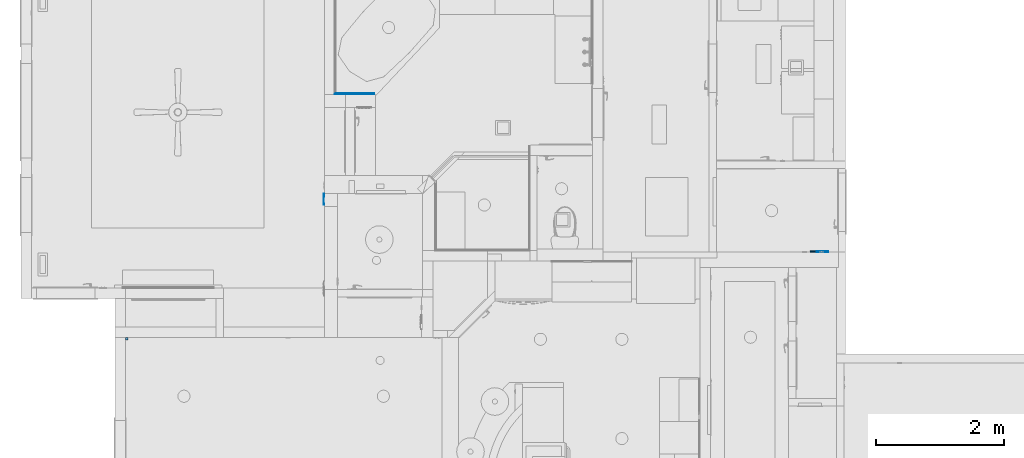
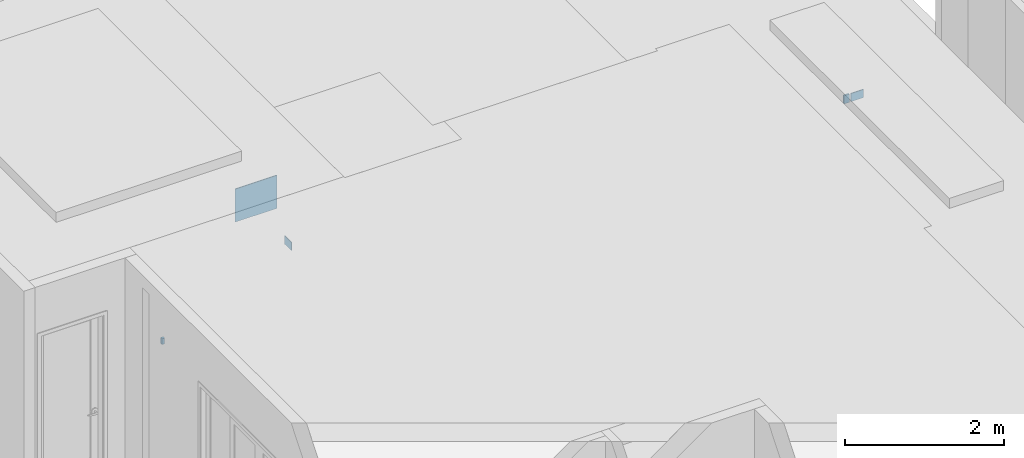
# One storey, part 5 of 103: 5 beams.
"""IFC2X3 building model written with IfcOpenShell, lengths in inches."""

import ifcopenshell
import ifcopenshell.guid

model = None  # the IFC model being written
_history = None  # IfcOwnerHistory: only IFC2X3 demands one
_inside = {}  # id of a spatial element -> (the spatial element, [elements in it])
_under = {}  # id of a project, library or spatial element -> (it, [spatial elements below it])
_declared = {}  # id of a project -> (the project, [libraries it declares])
_typed = {}  # id of a type object -> (the type object, [elements of that type])
_made_of = {}  # id of a material, layer set ... -> (it, [elements and type objects made of it])


def new_model(schema):
    """Start an empty IFC model of exactly this schema.

    Asked for "IFC4X3", IfcOpenShell would pick the latest addendum, in which some entities
    have other attributes; the version numbers below select the first issue.
    IFC2X3 requires an IfcOwnerHistory on every rooted entity: one is made here for all.
    """
    global model, _history
    if schema == "IFC4X3":
        model = ifcopenshell.file(schema_version=(4, 3, 0, 0))
    else:
        model = ifcopenshell.file(schema=schema)
    _inside.clear()
    _under.clear()
    _declared.clear()
    _typed.clear()
    _made_of.clear()
    _history = None
    if model.schema == "IFC2X3":
        org = make("IfcOrganization", Name="unknown")
        user = make(
            "IfcPersonAndOrganization",
            ThePerson=make("IfcPerson", FamilyName="unknown"),
            TheOrganization=org,
        )
        app = make(
            "IfcApplication",
            ApplicationDeveloper=org,
            Version="unknown",
            ApplicationFullName="unknown",
            ApplicationIdentifier="unknown",
        )
        _history = make(
            "IfcOwnerHistory",
            OwningUser=user,
            OwningApplication=app,
            ChangeAction="ADDED",
            CreationDate=0,
        )
    return model


def make(cls, **values):
    """One entity of the class cls with the attributes given. An attribute that is None is left unset."""
    return model.create_entity(
        cls, **{name: value for name, value in values.items() if value is not None}
    )


def entity(cls, *values):
    """Any entity or typed value of the class cls, its attributes in the order of the schema. None: left unset."""
    e = model.create_entity(cls)
    for i, value in enumerate(values):
        if value is not None:
            e[i] = value
    return e


def rooted(cls, **values):
    """An entity with a GlobalId (a new one), such as an element, a storey or a relation."""
    return make(cls, GlobalId=ifcopenshell.guid.new(), OwnerHistory=_history, **values)


def si_unit(unit_type, name, prefix=None):
    """IfcSIUnit, for example si_unit("LENGTHUNIT", "METRE", prefix="MILLI")."""
    return make("IfcSIUnit", UnitType=unit_type, Prefix=prefix, Name=name)


def converted_unit(unit_type, name, factor, base, dimensions=None, offset=None):
    """IfcConversionBasedUnit, such as the inch: factor (a typed value) times the base unit."""
    return make(
        "IfcConversionBasedUnit"
        if offset is None
        else "IfcConversionBasedUnitWithOffset",
        ConversionOffset=offset,
        Dimensions=None
        if dimensions is None
        else entity("IfcDimensionalExponents", *dimensions),
        UnitType=unit_type,
        Name=name,
        ConversionFactor=make(
            "IfcMeasureWithUnit", ValueComponent=factor, UnitComponent=base
        ),
    )


def derived_unit(unit_type, elements):
    """IfcDerivedUnit: a product of units, each with its exponent."""
    return make(
        "IfcDerivedUnit",
        Elements=[
            make("IfcDerivedUnitElement", Unit=unit, Exponent=power)
            for unit, power in elements
        ],
        UnitType=unit_type,
    )


def money_unit(currency):
    """IfcMonetaryUnit."""
    return make("IfcMonetaryUnit", Currency=currency)


def assignment(units):
    """IfcUnitAssignment: the units of a project."""
    return None if units is None else make("IfcUnitAssignment", Units=units)


def point(xyz):
    """IfcCartesianPoint."""
    return None if xyz is None else make("IfcCartesianPoint", Coordinates=xyz)


def direction(xyz):
    """IfcDirection."""
    return None if xyz is None else make("IfcDirection", DirectionRatios=xyz)


def frame(location, z_axis=None, x_axis=None):
    """IfcAxis2Placement3D, a coordinate frame: its origin and axes. An axis left out is left unset."""
    return make(
        "IfcAxis2Placement3D",
        Location=point(location),
        Axis=direction(z_axis),
        RefDirection=direction(x_axis),
    )


def origin_with_axes():
    """The frame at (0, 0, 0) with the z axis (0, 0, 1) and the x axis (1, 0, 0) written out."""
    return frame((0.0, 0.0, 0.0), z_axis=(0.0, 0.0, 1.0), x_axis=(1.0, 0.0, 0.0))


def place(relative_to, where):
    """IfcLocalPlacement: puts the frame where relative to a parent placement (None: the world)."""
    return make(
        "IfcLocalPlacement", PlacementRelTo=relative_to, RelativePlacement=where
    )


def context(
    kind, dimensions, precision=None, world=None, true_north=None, identifier=None
):
    """IfcGeometricRepresentationContext, for example the 3D "Model" context."""
    return make(
        "IfcGeometricRepresentationContext",
        ContextIdentifier=identifier,
        ContextType=kind,
        CoordinateSpaceDimension=dimensions,
        Precision=precision,
        WorldCoordinateSystem=world,
        TrueNorth=true_north,
    )


def subcontext(parent, identifier, kind, view, scale=None):
    """IfcGeometricRepresentationSubContext, for example "Body" below "Model"."""
    return make(
        "IfcGeometricRepresentationSubContext",
        ContextIdentifier=identifier,
        ContextType=kind,
        ParentContext=parent,
        TargetScale=scale,
        TargetView=view,
    )


def project(units=None, contexts=None):
    """IfcProject with its units and contexts."""
    return rooted(
        "IfcProject",
        Name="project",
        RepresentationContexts=contexts,
        UnitsInContext=assignment(units),
    )


def spatial(cls, under=None, at=None, **own):
    """A site, building, storey or space (cls), placed at a placement, below another one or the project."""
    s = rooted(cls, ObjectPlacement=at, **own)
    if under is not None:
        _under.setdefault(under.id(), (under, []))[1].append(s)
    return s


def faces_of(points, faces, orient=None, outer=None):
    """IfcFace entities. A face is a list of loops; a loop is a list of indices into points, from 0.

    orient and outer hold one flag for each loop. By default every Orientation is true, the
    first loop of a face is its IfcFaceOuterBound and the others are IfcFaceBound.
    """
    made = []
    for i, loops in enumerate(faces):
        bounds = []
        for j, loop in enumerate(loops):
            is_outer = j == 0 if outer is None else outer[i][j]
            bounds.append(
                make(
                    "IfcFaceOuterBound" if is_outer else "IfcFaceBound",
                    Bound=make("IfcPolyLoop", Polygon=[points[k] for k in loop]),
                    Orientation=True if orient is None else orient[i][j],
                )
            )
        made.append(make("IfcFace", Bounds=bounds))
    return made


def faceted_brep(points, faces, orient=None, outer=None, voids=None):
    """IfcFacetedBrep: a solid bounded by flat faces; with voids (closed shells), ...WithVoids."""
    shared = [point(p) for p in points]
    hull = make("IfcClosedShell", CfsFaces=faces_of(shared, faces, orient, outer))
    if voids is None:
        return make("IfcFacetedBrep", Outer=hull)
    return make(
        "IfcFacetedBrepWithVoids",
        Outer=hull,
        Voids=[
            make(cls, CfsFaces=faces_of(shared, fs, o, b)) for cls, fs, o, b in voids
        ],
    )


def shape(context_of_items, identifier, shape_type, items):
    """IfcShapeRepresentation: the items that make up one representation, for example the "Body"."""
    return make(
        "IfcShapeRepresentation",
        ContextOfItems=context_of_items,
        RepresentationIdentifier=identifier,
        RepresentationType=shape_type,
        Items=items,
    )


def material(Name=None, Category=None):
    """IfcMaterial."""
    return make("IfcMaterial", Name=Name, Category=Category)


def made_of(thing, what):
    """Note that an element or type object is made of a material, layer set ...; save() writes the relation."""
    if what is not None:
        _made_of.setdefault(what.id(), (what, []))[1].append(thing)
    return thing


def type_object(cls, material=None, **own):
    """A type object (cls), such as IfcWallType, which elements share."""
    return made_of(rooted(cls, **own), material)


def element(
    cls,
    number,
    at=None,
    inside=None,
    cuts=None,
    type_object=None,
    material=None,
    context=None,
    identifier="Body",
    shape_type=None,
    held_by="IfcProductDefinitionShape",
    body=None,
    shapes=None,
    **own,
):
    """One element of the class cls, such as IfcWall. Its Tag is "e" and its number.

    at: its placement. inside: the storey or other place that contains it. cuts: it is an
    opening in that element (IfcRelVoidsElement). A single representation is given by context,
    identifier, shape_type and body (its items); several are given by shapes. held_by: the class
    of the entity that holds the representations. save() writes the other relations.
    """
    e = rooted(cls, Tag="e%d" % number, ObjectPlacement=at, **own)
    if body is not None:
        shapes = [shape(context, identifier, shape_type, body)]
    if shapes is not None:
        e.Representation = make(held_by, Representations=shapes)
    if inside is not None:
        _inside.setdefault(inside.id(), (inside, []))[1].append(e)
    if cuts is not None:
        rooted(
            "IfcRelVoidsElement", RelatingBuildingElement=cuts, RelatedOpeningElement=e
        )
    if type_object is not None:
        _typed.setdefault(type_object.id(), (type_object, []))[1].append(e)
    return made_of(e, material)


def aggregate(whole, parts):
    """IfcRelAggregates: a whole, such as a stair, and the parts it consists of."""
    return rooted("IfcRelAggregates", RelatingObject=whole, RelatedObjects=parts)


def save(model, path):
    """Write the relations noted so far, then the file.

    IfcRelAggregates (storeys below a building ...), IfcRelContainedInSpatialStructure (elements
    in a storey), IfcRelDefinesByType, IfcRelAssociatesMaterial and IfcRelDeclares: one each for
    every whole, place, type object, material and project.
    """
    for whole, parts in _under.values():
        aggregate(whole, parts)
    for where, things in _inside.values():
        rooted(
            "IfcRelContainedInSpatialStructure",
            RelatedElements=things,
            RelatingStructure=where,
        )
    for kind, things in _typed.values():
        rooted("IfcRelDefinesByType", RelatedObjects=things, RelatingType=kind)
    for what, things in _made_of.values():
        rooted("IfcRelAssociatesMaterial", RelatedObjects=things, RelatingMaterial=what)
    for by, libraries in _declared.values():
        rooted("IfcRelDeclares", RelatingContext=by, RelatedDefinitions=libraries)
    model.write(path)


model = new_model("IFC2X3")

# Units and contexts
model_context = context("Model", 3, precision=0.00039370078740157, world=origin_with_axes(), true_north=direction((0.0, 1.0)))
plan_context = context("Plan", 3, precision=0.00039370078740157, world=origin_with_axes(), true_north=direction((0.0, 1.0)))
body_context = subcontext(model_context, "Body", "Model", "MODEL_VIEW")
ifc_project = project(units=[converted_unit("LENGTHUNIT", "INCH", entity("IfcPositiveLengthMeasure", 0.0254), si_unit("LENGTHUNIT", "METRE"), dimensions=[1, 0, 0, 0, 0, 0, 0]), converted_unit("AREAUNIT", "SQUARE_FOOT", entity("IfcPositiveLengthMeasure", 0.09290304), si_unit("AREAUNIT", "SQUARE_METRE"), dimensions=[2, 0, 0, 0, 0, 0, 0]), si_unit("PLANEANGLEUNIT", "RADIAN"), si_unit("SOLIDANGLEUNIT", "STERADIAN"), money_unit("USD"), converted_unit("TIMEUNIT", "Year", entity("IfcTimeMeasure", 31557600.0), si_unit("TIMEUNIT", "SECOND"), dimensions=[0, 0, 1, 0, 0, 0, 0]), si_unit("MASSUNIT", "GRAM", prefix="KILO"), si_unit("THERMODYNAMICTEMPERATUREUNIT", "DEGREE_CELSIUS"), si_unit("LUMINOUSINTENSITYUNIT", "LUMEN"), si_unit("ENERGYUNIT", "JOULE", prefix="MEGA"), derived_unit("SPECIFICHEATCAPACITYUNIT", [(si_unit("ENERGYUNIT", "JOULE"), 1), (si_unit("MASSUNIT", "GRAM", prefix="KILO"), -1), (si_unit("THERMODYNAMICTEMPERATUREUNIT", "KELVIN"), -1)])], contexts=[model_context, plan_context])

# Site, building, storey
site_placement = place(None, origin_with_axes())
site = spatial("IfcSite", under=ifc_project, at=site_placement, Name="Site", CompositionType="ELEMENT")
building_placement = place(site_placement, origin_with_axes())
building = spatial("IfcBuilding", under=site, at=building_placement, Name="Building", CompositionType="ELEMENT")
storey_placement = place(building_placement, frame((0.0, 0.0, 127.9999999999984), z_axis=(0.0, 0.0, 1.0), x_axis=(1.0, 0.0, 0.0)))
storey = spatial("IfcBuildingStorey", under=building, at=storey_placement, Name="Second Floor", CompositionType="ELEMENT", Elevation=128.0)

# Beams
ifc_material_1 = material(Name="Tile - Walls")
beam_type_1 = type_object("IfcBeamType", Name="Tile - Walls 1/2\" x 20\"", PredefinedType="BEAM")
beam_1_placement = place(storey_placement, frame((-69.2500111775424, 497.9999851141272, 23.99999999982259), z_axis=(0.0, 0.0, 1.0), x_axis=(9.406549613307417e-08, -0.9999999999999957, 0.0)))
element("IfcBeam", 1, at=beam_1_placement, inside=storey, type_object=beam_type_1, material=ifc_material_1, Name="BMR - 115", context=body_context, shape_type="Brep", body=[
    faceted_brep([(0.0, 0.0, 0.0), (-0.5000000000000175, 0.50000012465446, 0.0), (-0.5000000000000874, 23.99999999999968, 0.0), (0.0, 23.99999999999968, 0.0), (0.0, 0.0, 20.00013617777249), (-0.5000000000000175, 0.5000001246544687, 20.00013617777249), (-0.5000000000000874, 23.99999999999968, 20.00013617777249), (0.0, 23.99999999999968, 20.00013617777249)], [[[0, 1, 2, 3]], [[4, 5, 1, 0]], [[1, 5, 6, 2]], [[7, 3, 2, 6]], [[4, 0, 3, 7]], [[5, 4, 7, 6]]]),
])
ifc_material_2 = material(Name="Generic - Structural")
beam_type_2 = type_object("IfcBeamType", Name="Generic - Structural 1/2\" x 5\"", PredefinedType="BEAM")
beam_2_placement = place(storey_placement, frame((233.7993734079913, 401.0009092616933, 51.99999999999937), z_axis=(0.0, 0.0, 1.0), x_axis=(0.0, 1.0, 0.0)))
element("IfcBeam", 2, at=beam_2_placement, inside=storey, type_object=beam_type_2, material=ifc_material_2, Name="BMR - 012", context=body_context, shape_type="Brep", body=[
    faceted_brep([(0.0, 0.0, 0.0), (0.0, 6.999999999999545, 0.0), (0.500050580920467, 6.999999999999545, 0.0), (0.500050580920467, 0.0, 0.0), (0.0, 0.0, 5.000000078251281), (0.0, 6.999999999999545, 5.000000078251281), (0.500050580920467, 6.999999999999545, 5.000000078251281), (0.500050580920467, 0.0, 5.000000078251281)], [[[0, 1, 2, 3]], [[4, 5, 1, 0]], [[2, 1, 5, 6]], [[3, 2, 6, 7]], [[4, 0, 3, 7]], [[7, 6, 5, 4]]]),
])
beam_3_placement = place(storey_placement, frame((-75.74999999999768, 436.9999999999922, 50.49999999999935), z_axis=(0.0, 0.0, 1.0), x_axis=(-1.0, 0.0, 0.0)))
element("IfcBeam", 3, at=beam_3_placement, inside=storey, type_object=beam_type_2, material=ifc_material_2, Name="BMR - 013", context=body_context, shape_type="Brep", body=[
    faceted_brep([(0.0, 0.0, 0.0), (0.0, 6.999999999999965, 0.0), (0.5000085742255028, 6.999999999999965, 0.0), (0.5000085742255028, 0.0, 0.0), (0.0, 0.0, 5.000000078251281), (0.0, 6.999999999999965, 5.000000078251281), (0.5000085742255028, 6.999999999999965, 5.000000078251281), (0.5000085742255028, 0.0, 5.000000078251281)], [[[0, 1, 2, 3]], [[4, 5, 1, 0]], [[2, 1, 5, 6]], [[3, 2, 6, 7]], [[4, 0, 3, 7]], [[7, 6, 5, 4]]]),
])
beam_type_3 = type_object("IfcBeamType", Name="Generic - Structural 1 1/2\" x 3 1/2\"", PredefinedType="BEAM")
beam_4_placement = place(storey_placement, frame((-198.0004321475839, 348.4999999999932, 86.7499999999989), z_axis=(0.0, 0.0, 1.0), x_axis=(2.019381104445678e-06, -0.9999999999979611, 0.0)))
element("IfcBeam", 4, at=beam_4_placement, inside=storey, type_object=beam_type_3, material=ifc_material_2, Name="BMR - 012", context=body_context, shape_type="Brep", body=[
    faceted_brep([(0.0, 0.0, 0.0), (0.0, 1.500000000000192, 0.0), (1.499999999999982, 1.500000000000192, 0.0), (1.499999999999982, 0.0, 0.0), (0.0, 0.0, 3.500017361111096), (0.0, 1.500000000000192, 3.500017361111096), (1.499999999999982, 1.500000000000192, 3.500017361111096), (1.499999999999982, 0.0, 3.500017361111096)], [[[0, 1, 2, 3]], [[4, 5, 1, 0]], [[2, 1, 5, 6]], [[3, 2, 6, 7]], [[4, 0, 3, 7]], [[7, 6, 5, 4]]]),
])
beam_type_4 = type_object("IfcBeamType", Name="Generic - Structural 1\" x 5\"", PredefinedType="BEAM")
beam_5_placement = place(storey_placement, frame((225.7993734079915, 401.0009092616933, 51.99999999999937), z_axis=(0.0, 0.0, 1.0), x_axis=(0.0, 1.0, 0.0)))
element("IfcBeam", 5, at=beam_5_placement, inside=storey, type_object=beam_type_4, material=ifc_material_2, Name="BMR - 012", context=body_context, shape_type="Brep", body=[
    faceted_brep([(0.0, 0.0, 0.0), (0.0, 2.999999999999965, 0.0), (1.000003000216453, 2.999999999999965, 0.0), (1.000003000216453, 0.0, 0.0), (0.0, 0.0, 5.000000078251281), (0.0, 2.999999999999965, 5.000000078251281), (1.000003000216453, 2.999999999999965, 5.000000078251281), (1.000003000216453, 0.0, 5.000000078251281)], [[[0, 1, 2, 3]], [[4, 5, 1, 0]], [[2, 1, 5, 6]], [[3, 2, 6, 7]], [[4, 0, 3, 7]], [[7, 6, 5, 4]]]),
])

save(model, "model.ifc")
